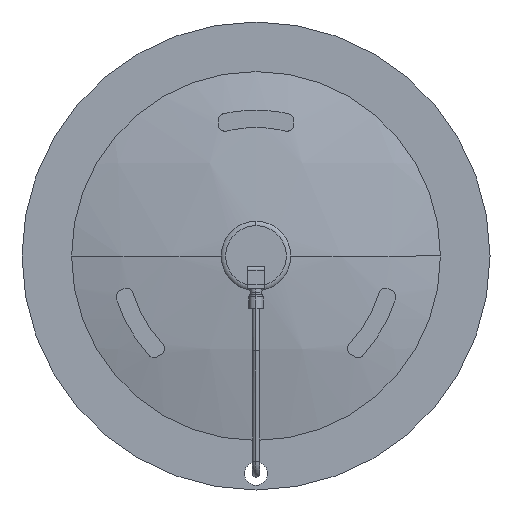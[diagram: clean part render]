
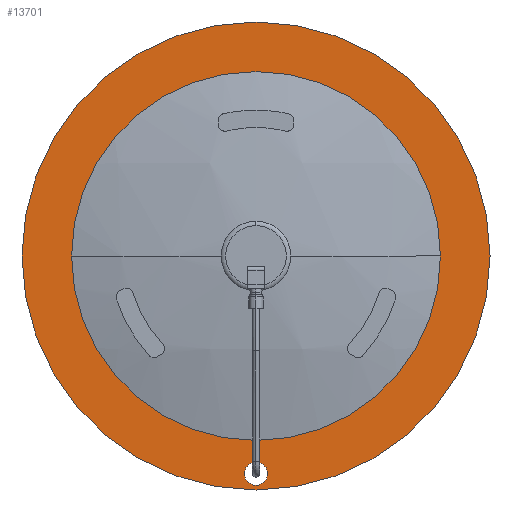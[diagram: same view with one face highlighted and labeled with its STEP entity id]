
A CAD part, front view. The second image highlights one B-rep face of the part: STEP entity #13701.
In plain terms, the highlighted planar face has unit normal (0, -1, 0).
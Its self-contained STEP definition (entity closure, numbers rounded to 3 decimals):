
#39 = AXIS2_PLACEMENT_3D ( 'NONE', #13599, #4106, #8359 ) ;
#218 = EDGE_CURVE ( 'NONE', #8471, #8822, #469, .T. ) ;
#311 = CARTESIAN_POINT ( 'NONE',  ( 0., -271.3, -186.5 ) ) ;
#469 = CIRCLE ( 'NONE', #5786, 158.018 ) ;
#644 = AXIS2_PLACEMENT_3D ( 'NONE', #3310, #11860, #12893 ) ;
#705 = AXIS2_PLACEMENT_3D ( 'NONE', #12372, #2850, #11327 ) ;
#991 = FACE_BOUND ( 'NONE', #7903, .T. ) ;
#1014 = CIRCLE ( 'NONE', #1269, 200.5 ) ;
#1269 = AXIS2_PLACEMENT_3D ( 'NONE', #7166, #9261, #7032 ) ;
#2036 = DIRECTION ( 'NONE',  ( 0., 0., -1. ) ) ;
#2357 = CARTESIAN_POINT ( 'NONE',  ( -158.018, -271.3, 0. ) ) ;
#2617 = CARTESIAN_POINT ( 'NONE',  ( 0., -271.3, 0. ) ) ;
#2850 = DIRECTION ( 'NONE',  ( 0., -1., 0. ) ) ;
#3120 = CARTESIAN_POINT ( 'NONE',  ( 0., -271.3, 200.5 ) ) ;
#3134 = FACE_OUTER_BOUND ( 'NONE', #5055, .T. ) ;
#3310 = CARTESIAN_POINT ( 'NONE',  ( 0., -271.3, 0. ) ) ;
#3333 = CIRCLE ( 'NONE', #39, 200.5 ) ;
#3334 = EDGE_LOOP ( 'NONE', ( #11124, #6813 ) ) ;
#4106 = DIRECTION ( 'NONE',  ( 0., 1., 0. ) ) ;
#4141 = EDGE_CURVE ( 'NONE', #4320, #6278, #1014, .T. ) ;
#4320 = VERTEX_POINT ( 'NONE', #3120 ) ;
#4508 = CARTESIAN_POINT ( 'NONE',  ( 0., -271.3, -196.5 ) ) ;
#4679 = DIRECTION ( 'NONE',  ( 0., -1., 0. ) ) ;
#5055 = EDGE_LOOP ( 'NONE', ( #12577, #7729 ) ) ;
#5158 = CARTESIAN_POINT ( 'NONE',  ( 0., -271.3, -176.5 ) ) ;
#5367 = FACE_BOUND ( 'NONE', #3334, .T. ) ;
#5786 = AXIS2_PLACEMENT_3D ( 'NONE', #2617, #5883, #7010 ) ;
#5883 = DIRECTION ( 'NONE',  ( 0., -1., 0. ) ) ;
#6278 = VERTEX_POINT ( 'NONE', #12145 ) ;
#6702 = CIRCLE ( 'NONE', #705, 10. ) ;
#6813 = ORIENTED_EDGE ( 'NONE', *, *, #7514, .F. ) ;
#6971 = VERTEX_POINT ( 'NONE', #5158 ) ;
#7010 = DIRECTION ( 'NONE',  ( 0., 0., -1. ) ) ;
#7032 = DIRECTION ( 'NONE',  ( 0., 0., 1. ) ) ;
#7166 = CARTESIAN_POINT ( 'NONE',  ( 0., -271.3, 0. ) ) ;
#7514 = EDGE_CURVE ( 'NONE', #8822, #8471, #12604, .T. ) ;
#7729 = ORIENTED_EDGE ( 'NONE', *, *, #10711, .F. ) ;
#7903 = EDGE_LOOP ( 'NONE', ( #12217, #9166 ) ) ;
#8359 = DIRECTION ( 'NONE',  ( 0., 0., 1. ) ) ;
#8471 = VERTEX_POINT ( 'NONE', #2357 ) ;
#8517 = VERTEX_POINT ( 'NONE', #4508 ) ;
#8822 = VERTEX_POINT ( 'NONE', #10042 ) ;
#9154 = AXIS2_PLACEMENT_3D ( 'NONE', #311, #4679, #11958 ) ;
#9166 = ORIENTED_EDGE ( 'NONE', *, *, #11517, .F. ) ;
#9261 = DIRECTION ( 'NONE',  ( 0., 1., 0. ) ) ;
#9546 = PLANE ( 'NONE',  #11359 ) ;
#10042 = CARTESIAN_POINT ( 'NONE',  ( 158.018, -271.3, 0. ) ) ;
#10579 = DIRECTION ( 'NONE',  ( 0., -1., 0. ) ) ;
#10711 = EDGE_CURVE ( 'NONE', #6278, #4320, #3333, .T. ) ;
#11124 = ORIENTED_EDGE ( 'NONE', *, *, #218, .F. ) ;
#11327 = DIRECTION ( 'NONE',  ( 0., 0., -1. ) ) ;
#11359 = AXIS2_PLACEMENT_3D ( 'NONE', #11538, #10579, #2036 ) ;
#11517 = EDGE_CURVE ( 'NONE', #8517, #6971, #12887, .T. ) ;
#11538 = CARTESIAN_POINT ( 'NONE',  ( -200.5, -271.3, 0. ) ) ;
#11683 = EDGE_CURVE ( 'NONE', #6971, #8517, #6702, .T. ) ;
#11860 = DIRECTION ( 'NONE',  ( 0., -1., 0. ) ) ;
#11958 = DIRECTION ( 'NONE',  ( 0., 0., -1. ) ) ;
#12145 = CARTESIAN_POINT ( 'NONE',  ( 0., -271.3, -200.5 ) ) ;
#12217 = ORIENTED_EDGE ( 'NONE', *, *, #11683, .F. ) ;
#12372 = CARTESIAN_POINT ( 'NONE',  ( 0., -271.3, -186.5 ) ) ;
#12577 = ORIENTED_EDGE ( 'NONE', *, *, #4141, .F. ) ;
#12604 = CIRCLE ( 'NONE', #644, 158.018 ) ;
#12887 = CIRCLE ( 'NONE', #9154, 10. ) ;
#12893 = DIRECTION ( 'NONE',  ( 0., 0., -1. ) ) ;
#13599 = CARTESIAN_POINT ( 'NONE',  ( 0., -271.3, 0. ) ) ;
#13701 = ADVANCED_FACE ( 'NONE', ( #991, #5367, #3134 ), #9546, .T. ) ;
